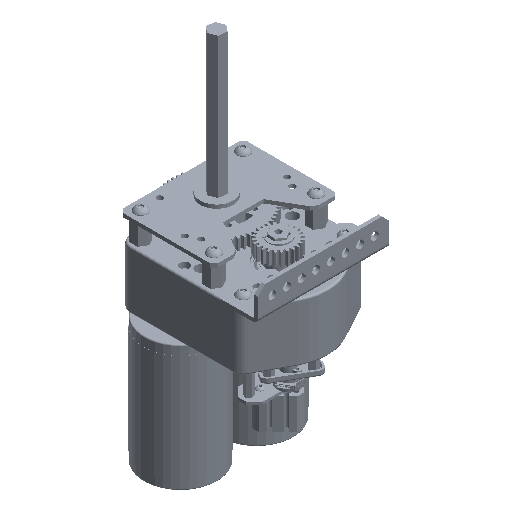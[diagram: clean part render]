
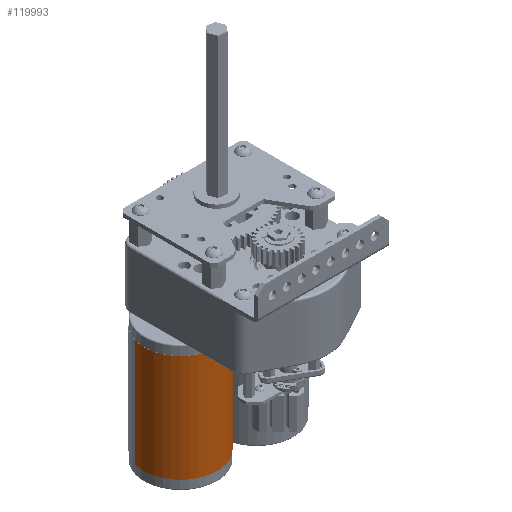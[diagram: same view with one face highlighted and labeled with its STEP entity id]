
A CAD part, isometric view. The second image highlights one B-rep face of the part: STEP entity #119993.
In plain terms, the highlighted cylindrical face has radius 32.004 mm (diameter 64.008 mm), a partial arc.
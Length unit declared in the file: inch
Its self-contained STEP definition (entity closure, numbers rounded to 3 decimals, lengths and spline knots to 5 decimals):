
#21573 = FACE_OUTER_BOUND ( 'NONE', #242668, .T. ) ;
#21587 = CYLINDRICAL_SURFACE ( 'NONE', #56486, 1.26 ) ;
#23029 = CIRCLE ( 'NONE', #54018, 1.26 ) ;
#23032 = LINE ( 'NONE', #143453, #23042 ) ;
#23037 = LINE ( 'NONE', #143478, #23050 ) ;
#23040 = CIRCLE ( 'NONE', #54019, 1.26 ) ;
#23042 = VECTOR ( 'NONE', #143440, 39.37008 ) ;
#23050 = VECTOR ( 'NONE', #143444, 39.37008 ) ;
#39876 = CARTESIAN_POINT ( 'NONE',  ( 3.99096, 0., -1.26 ) ) ;
#40086 = CARTESIAN_POINT ( 'NONE',  ( 0.324, 0., 1.26 ) ) ;
#54018 = AXIS2_PLACEMENT_3D ( 'NONE', #143457, #143461, #143463 ) ;
#54019 = AXIS2_PLACEMENT_3D ( 'NONE', #143481, #143484, #143486 ) ;
#56486 = AXIS2_PLACEMENT_3D ( 'NONE', #78213, #78205, #78196 ) ;
#74168 = EDGE_CURVE ( 'NONE', #87027, #239781, #23029, .T. ) ;
#74169 = EDGE_CURVE ( 'NONE', #239781, #86983, #23032, .T. ) ;
#74170 = EDGE_CURVE ( 'NONE', #239676, #86983, #23040, .T. ) ;
#74171 = EDGE_CURVE ( 'NONE', #87027, #239676, #23037, .T. ) ;
#78196 = DIRECTION ( 'NONE',  ( 0., 0., -1. ) ) ;
#78205 = DIRECTION ( 'NONE',  ( 1., 0., 0. ) ) ;
#78213 = CARTESIAN_POINT ( 'NONE',  ( 0., 0., 0. ) ) ;
#86983 = VERTEX_POINT ( 'NONE', #249468 ) ;
#87027 = VERTEX_POINT ( 'NONE', #249529 ) ;
#119993 = ADVANCED_FACE ( 'NONE', ( #21573 ), #21587, .T. ) ;
#143440 = DIRECTION ( 'NONE',  ( 1., 0., 0. ) ) ;
#143444 = DIRECTION ( 'NONE',  ( 1., 0., 0. ) ) ;
#143453 = CARTESIAN_POINT ( 'NONE',  ( 0., 0., 1.26 ) ) ;
#143457 = CARTESIAN_POINT ( 'NONE',  ( 0.324, 0., 0. ) ) ;
#143461 = DIRECTION ( 'NONE',  ( 1., 0., 0. ) ) ;
#143463 = DIRECTION ( 'NONE',  ( 0., 0., -1. ) ) ;
#143478 = CARTESIAN_POINT ( 'NONE',  ( 0., 0., -1.26 ) ) ;
#143481 = CARTESIAN_POINT ( 'NONE',  ( 3.99096, 0., 0. ) ) ;
#143484 = DIRECTION ( 'NONE',  ( 1., 0., 0. ) ) ;
#143486 = DIRECTION ( 'NONE',  ( 0., 0., -1. ) ) ;
#213270 = ORIENTED_EDGE ( 'NONE', *, *, #74168, .T. ) ;
#213272 = ORIENTED_EDGE ( 'NONE', *, *, #74169, .T. ) ;
#213274 = ORIENTED_EDGE ( 'NONE', *, *, #74170, .F. ) ;
#213276 = ORIENTED_EDGE ( 'NONE', *, *, #74171, .F. ) ;
#239676 = VERTEX_POINT ( 'NONE', #39876 ) ;
#239781 = VERTEX_POINT ( 'NONE', #40086 ) ;
#242668 = EDGE_LOOP ( 'NONE', ( #213270, #213272, #213274, #213276 ) ) ;
#249468 = CARTESIAN_POINT ( 'NONE',  ( 3.99096, 0., 1.26 ) ) ;
#249529 = CARTESIAN_POINT ( 'NONE',  ( 0.324, 0., -1.26 ) ) ;
